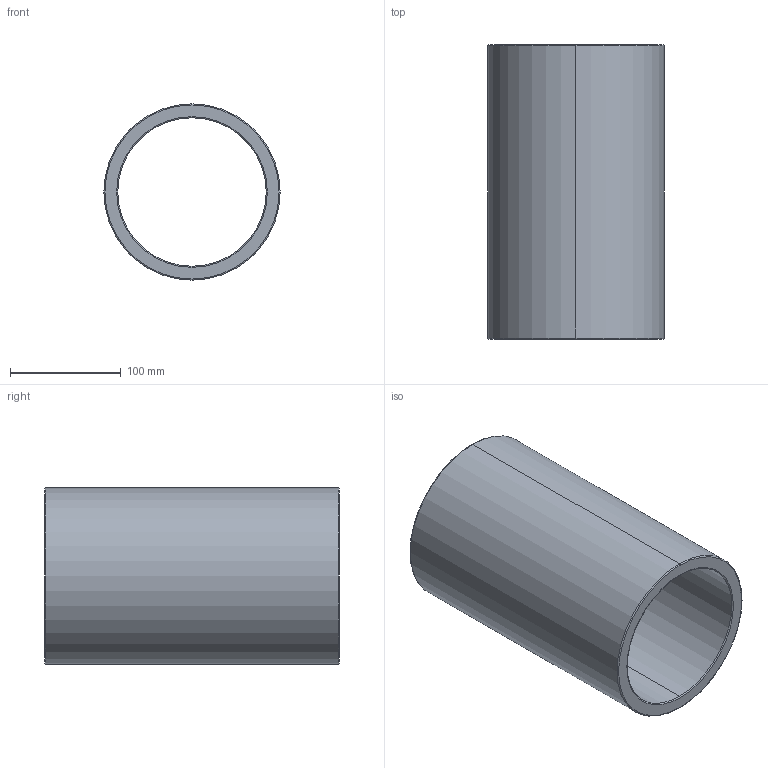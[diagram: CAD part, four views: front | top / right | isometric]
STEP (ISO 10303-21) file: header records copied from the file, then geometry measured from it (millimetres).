
FILE_DESCRIPTION(('CATIA V5 STEP Exchange','CAx-IF Rec.Pracs.--- Composite Materials ---3.4---2017-06-13'),'2;1');
FILE_NAME('C:\Users\PM610867\AppData\Local\ST-WORK_R32_PROD\Liasse-PDF\IEM_PEPSI_CEG_DEF_K_1229_200-TUBE_CENTRAL-A.stp','2025-02-14T10:15:17+00:00',('none'),('none'),'CATIA Version 5-6 Release 2022 SP2','CATIA V5 STEP AP203 v2','none');
FILE_SCHEMA(('CONFIG_CONTROL_DESIGN'));
Length unit declared in the file: millimetre
Products named in the file (1): IEM PEPSI CEG DEF K 1229 200
Bounding box: 159.2 x 266 x 159.2 mm (x, y, z)
Volume: 1543209.1 mm3; surface area: 255831.9 mm2
Topology: 1 solids, 1 shells, 14 faces, 28 edges, 16 vertices
Faces by surface type: torus 8, cylinder 4, plane 2
Entity records: 367 total; most frequent: ORIENTED_EDGE 56, CARTESIAN_POINT 54, DIRECTION 46, AXIS2_PLACEMENT_3D 34, EDGE_CURVE 28, CIRCLE 24, EDGE_LOOP 16, VERTEX_POINT 16
